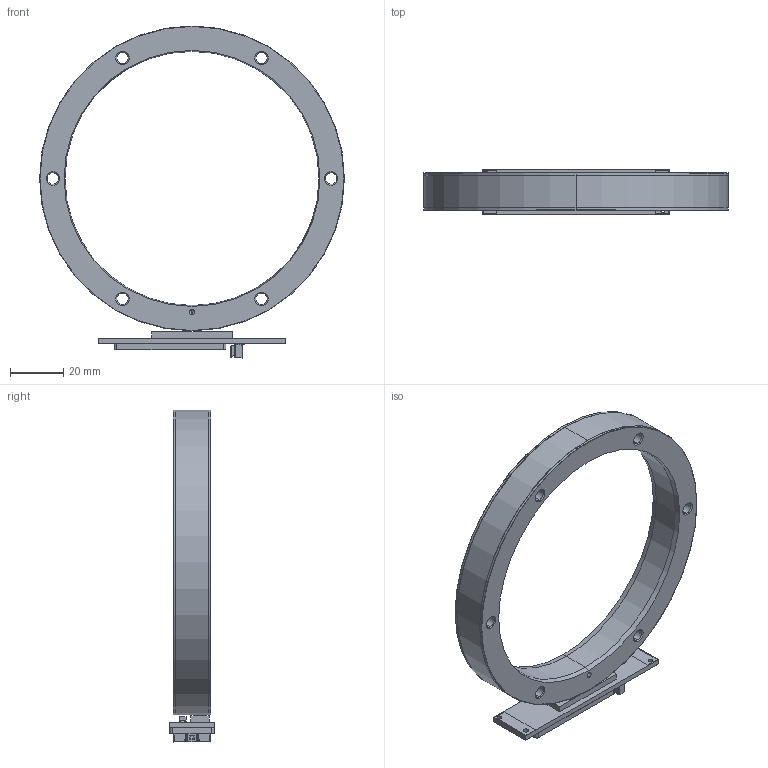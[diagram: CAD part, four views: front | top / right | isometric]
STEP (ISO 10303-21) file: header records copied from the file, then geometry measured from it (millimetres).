
FILE_DESCRIPTION (( 'STEP AP214' ), '1' );
FILE_NAME ('DBRxVx_SAR114_exposed.STEP', '2024-02-02T13:08:14', ( '' ), ( '' ), 'SwSTEP 2.0', 'SolidWorks 2022', '' );
FILE_SCHEMA (( 'AUTOMOTIVE_DESIGN' ));
Length unit declared in the file: millimetre
Products named in the file (1): DBRxVx_SAR114_exposed
Bounding box: 114 x 17 x 124.14 mm (x, y, z)
Volume: 46738.9 mm3; surface area: 20195.6 mm2
Topology: 2 solids, 2 shells, 1680 faces, 4612 edges, 3063 vertices
Faces by surface type: plane 1320, bspline 202, cylinder 106, cone 40, torus 8, sphere 4
Entity records: 82362 total; most frequent: CARTESIAN_POINT 26235, ORIENTED_EDGE 9214, DIRECTION 5347, EDGE_CURVE 4607, VERTEX_POINT 3063, B_SPLINE_CURVE_WITH_KNOTS 2364, LINE 2097, VECTOR 2097
